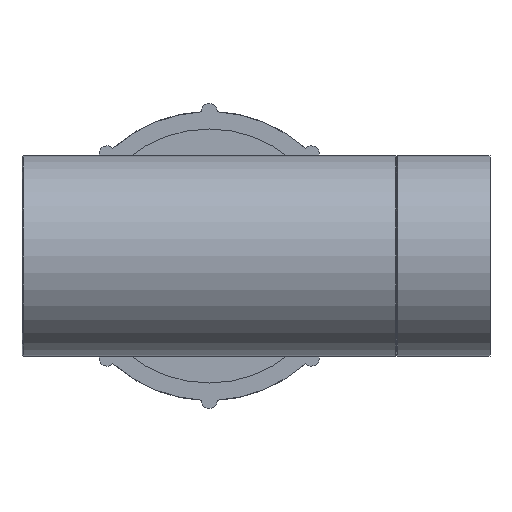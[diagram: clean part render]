
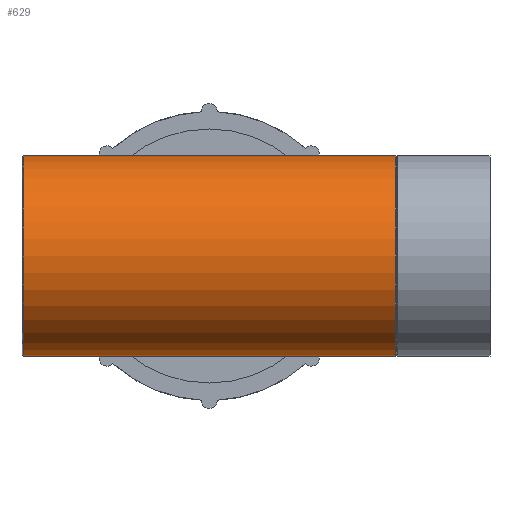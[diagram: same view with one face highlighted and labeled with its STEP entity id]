
A CAD part, left-side view. The second image highlights one B-rep face of the part: STEP entity #629.
In plain terms, the highlighted cylindrical face has radius 37.5 mm (diameter 75 mm), a full revolution.
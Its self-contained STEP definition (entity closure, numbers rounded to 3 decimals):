
#88=ELLIPSE($,#679,53.033,37.5);
#89=ELLIPSE($,#680,53.033,37.5);
#92=CYLINDRICAL_SURFACE($,#678,37.5);
#113=FACE_BOUND($,#178,.T.);
#114=FACE_BOUND($,#179,.T.);
#115=FACE_BOUND($,#180,.T.);
#178=EDGE_LOOP($,(#428,#429));
#179=EDGE_LOOP($,(#430));
#180=EDGE_LOOP($,(#431));
#236=CIRCLE($,#674,37.5);
#238=CIRCLE($,#677,37.5);
#280=VERTEX_POINT($,#968);
#282=VERTEX_POINT($,#973);
#283=VERTEX_POINT($,#976);
#284=VERTEX_POINT($,#977);
#344=EDGE_CURVE($,#280,#280,#236,.T.);
#346=EDGE_CURVE($,#282,#282,#238,.T.);
#347=EDGE_CURVE($,#283,#284,#88,.T.);
#348=EDGE_CURVE($,#284,#283,#89,.T.);
#428=ORIENTED_EDGE($,*,*,#347,.T.);
#429=ORIENTED_EDGE($,*,*,#348,.T.);
#430=ORIENTED_EDGE($,*,*,#346,.T.);
#431=ORIENTED_EDGE($,*,*,#344,.T.);
#629=ADVANCED_FACE($,(#113,#114,#115),#92,.T.);
#674=AXIS2_PLACEMENT_3D($,#969,#771,#772);
#677=AXIS2_PLACEMENT_3D($,#974,#777,#778);
#678=AXIS2_PLACEMENT_3D($,#975,#779,#780);
#679=AXIS2_PLACEMENT_3D($,#978,#781,#782);
#680=AXIS2_PLACEMENT_3D($,#979,#783,#784);
#771=DIRECTION('center_axis',(0.,1.,0.));
#772=DIRECTION('ref_axis',(1.,0.,0.));
#777=DIRECTION('center_axis',(0.,-1.,0.));
#778=DIRECTION('ref_axis',(1.,0.,0.));
#779=DIRECTION('center_axis',(0.,1.,0.));
#780=DIRECTION('ref_axis',(1.,0.,0.));
#781=DIRECTION('center_axis',(-0.707,-0.707,0.));
#782=DIRECTION('ref_axis',(0.707,-0.707,0.));
#783=DIRECTION('center_axis',(-0.707,0.707,0.));
#784=DIRECTION('ref_axis',(-0.707,-0.707,0.));
#968=CARTESIAN_POINT('',(0.,35.433,37.5));
#969=CARTESIAN_POINT('Origin',(0.,35.433,0.));
#973=CARTESIAN_POINT('',(0.,174.567,37.5));
#974=CARTESIAN_POINT('Origin',(0.,174.567,0.));
#975=CARTESIAN_POINT('Origin',(0.,0.,0.));
#976=CARTESIAN_POINT('',(0.,105.,-37.5));
#977=CARTESIAN_POINT('',(0.,105.,37.5));
#978=CARTESIAN_POINT('Origin',(0.,105.,0.));
#979=CARTESIAN_POINT('Origin',(0.,105.,0.));
